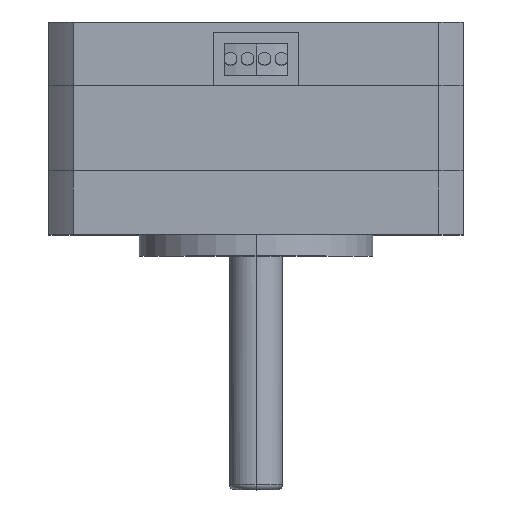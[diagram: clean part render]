
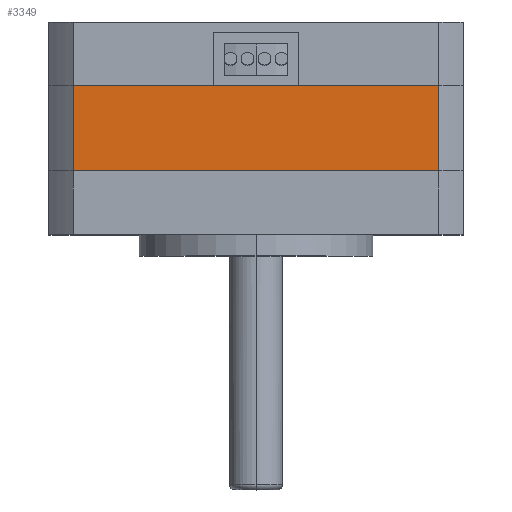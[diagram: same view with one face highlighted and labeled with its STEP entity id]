
A CAD part, top view. The second image highlights one B-rep face of the part: STEP entity #3349.
In plain terms, the highlighted planar face has unit normal (0, 0, 1).
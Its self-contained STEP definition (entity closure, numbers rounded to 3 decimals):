
#305 = DIRECTION ( 'NONE',  ( -1., 0., 0. ) ) ;
#354 = VECTOR ( 'NONE', #1841, 1000. ) ;
#418 = PLANE ( 'NONE',  #1784 ) ;
#450 = LINE ( 'NONE', #3358, #4938 ) ;
#792 = DIRECTION ( 'NONE',  ( 0., 1., 0. ) ) ;
#802 = EDGE_CURVE ( 'NONE', #4363, #2254, #2995, .T. ) ;
#1230 = CARTESIAN_POINT ( 'NONE',  ( -17.197, 8., 19.5 ) ) ;
#1453 = EDGE_CURVE ( 'NONE', #1751, #3110, #2641, .T. ) ;
#1552 = EDGE_CURVE ( 'NONE', #3110, #2254, #5611, .T. ) ;
#1553 = CARTESIAN_POINT ( 'NONE',  ( 17.197, 8., 19.5 ) ) ;
#1724 = CARTESIAN_POINT ( 'NONE',  ( -17.197, 0., 19.5 ) ) ;
#1751 = VERTEX_POINT ( 'NONE', #1230 ) ;
#1784 = AXIS2_PLACEMENT_3D ( 'NONE', #4636, #2888, #305 ) ;
#1841 = DIRECTION ( 'NONE',  ( 1., 0., 0. ) ) ;
#2254 = VERTEX_POINT ( 'NONE', #5181 ) ;
#2641 = LINE ( 'NONE', #5317, #354 ) ;
#2779 = EDGE_CURVE ( 'NONE', #4363, #1751, #450, .T. ) ;
#2888 = DIRECTION ( 'NONE',  ( 0., 0., -1. ) ) ;
#2995 = LINE ( 'NONE', #4492, #5062 ) ;
#3017 = FACE_OUTER_BOUND ( 'NONE', #4528, .T. ) ;
#3110 = VERTEX_POINT ( 'NONE', #1553 ) ;
#3136 = ORIENTED_EDGE ( 'NONE', *, *, #802, .T. ) ;
#3193 = DIRECTION ( 'NONE',  ( 1., 0., 0. ) ) ;
#3349 = ADVANCED_FACE ( 'NONE', ( #3017 ), #418, .F. ) ;
#3358 = CARTESIAN_POINT ( 'NONE',  ( -17.197, 0., 19.5 ) ) ;
#4100 = CARTESIAN_POINT ( 'NONE',  ( 17.197, 0., 19.5 ) ) ;
#4180 = ORIENTED_EDGE ( 'NONE', *, *, #1453, .F. ) ;
#4363 = VERTEX_POINT ( 'NONE', #1724 ) ;
#4432 = VECTOR ( 'NONE', #4992, 1000. ) ;
#4453 = ORIENTED_EDGE ( 'NONE', *, *, #1552, .F. ) ;
#4492 = CARTESIAN_POINT ( 'NONE',  ( -19.5, 0., 19.5 ) ) ;
#4528 = EDGE_LOOP ( 'NONE', ( #4948, #3136, #4453, #4180 ) ) ;
#4636 = CARTESIAN_POINT ( 'NONE',  ( -19.5, 8., 19.5 ) ) ;
#4938 = VECTOR ( 'NONE', #792, 1000. ) ;
#4948 = ORIENTED_EDGE ( 'NONE', *, *, #2779, .F. ) ;
#4992 = DIRECTION ( 'NONE',  ( 0., -1., 0. ) ) ;
#5062 = VECTOR ( 'NONE', #3193, 1000. ) ;
#5181 = CARTESIAN_POINT ( 'NONE',  ( 17.197, 0., 19.5 ) ) ;
#5317 = CARTESIAN_POINT ( 'NONE',  ( -19.5, 8., 19.5 ) ) ;
#5611 = LINE ( 'NONE', #4100, #4432 ) ;
